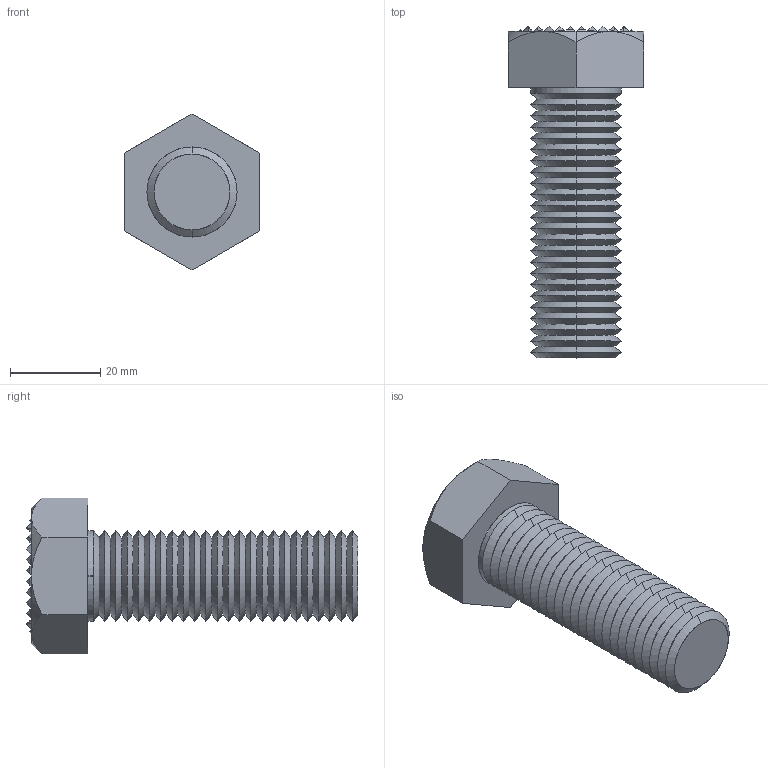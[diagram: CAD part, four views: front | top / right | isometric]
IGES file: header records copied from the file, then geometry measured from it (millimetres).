
Start section: SolidWorks IGES file using analytic representation for surfaces
Global section: file name: C:\Documents and Settings\IANO\Desktop\Temp File\Process pending\NEW\35400_v2\35400_v2_20170704_IGES\35400.W0014.igs; native system: SolidWorks 2009; preprocessor: SolidWorks 2009; author: IANO; date: 170703.082309; units: millimetre
Bounding box: 30 x 73.7 x 34.64 mm (x, y, z)
Surface area: 8458.5 mm2 (no closed solid volume)
Topology: 0 solids, 0 shells, 556 faces, 2069 edges, 2069 vertices
Faces by surface type: bspline 409, revolution 147
